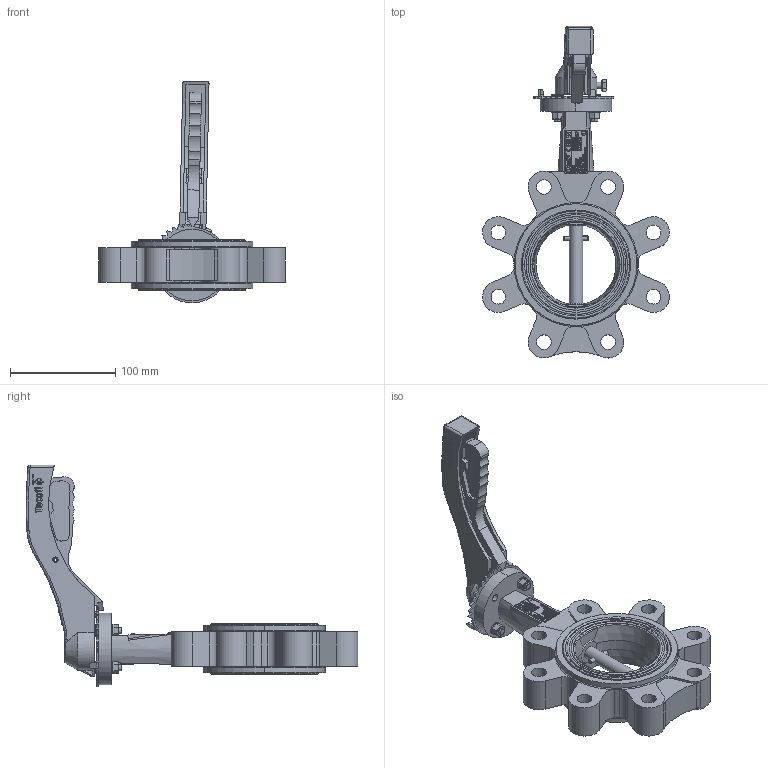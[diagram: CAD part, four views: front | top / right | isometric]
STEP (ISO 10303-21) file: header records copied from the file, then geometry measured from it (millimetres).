
FILE_DESCRIPTION (( 'STEP AP214' ), '1' );
FILE_NAME ('VPG464X-02XX0080VPG464X-02XX0080--.step', '2022-05-19T10:11:54', ( '' ), ( '' ), 'SwSTEP 2.0', 'SolidWorks 2020', '' );
FILE_SCHEMA (( 'AUTOMOTIVE_DESIGN' ));
Length unit declared in the file: millimetre
Products named in the file (1): VPG464X-02XX0080VPG464X-02XX0080--
Bounding box: 177.81 x 315.84 x 211.19 mm (x, y, z)
Surface area: 168851.1 mm2 (no closed solid volume)
Topology: 0 solids, 70 shells, 714 faces, 5150 edges, 4482 vertices
Faces by surface type: plane 402, cylinder 181, bspline 77, cone 49, torus 5
Entity records: 71736 total; most frequent: CARTESIAN_POINT 28505, ORIENTED_EDGE 6613, DIRECTION 5848, EDGE_CURVE 5145, VERTEX_POINT 4482, LINE 3366, VECTOR 3366, AXIS2_PLACEMENT_3D 1241
